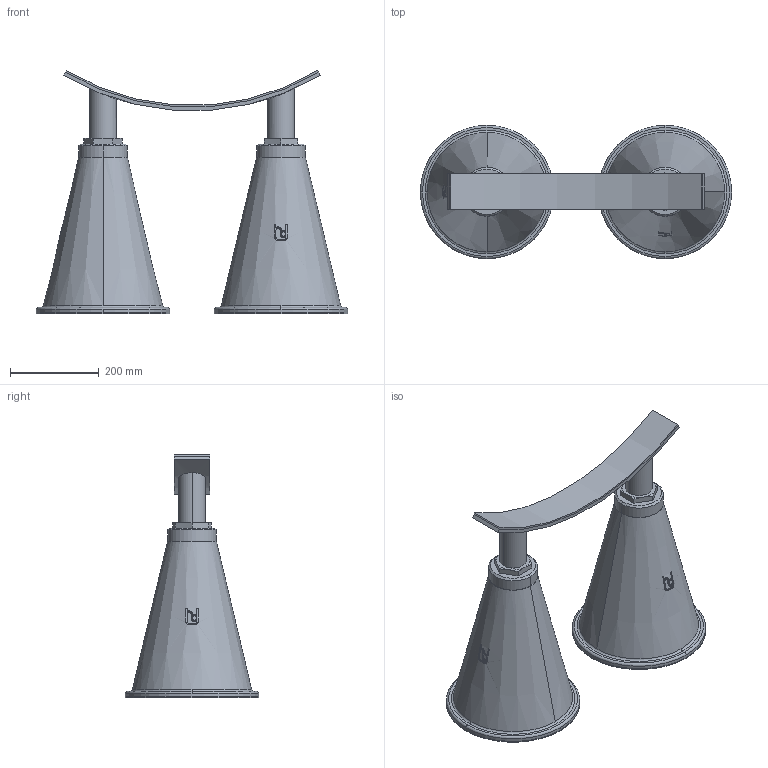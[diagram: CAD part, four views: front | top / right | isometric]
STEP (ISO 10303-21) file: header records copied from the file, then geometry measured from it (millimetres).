
FILE_DESCRIPTION(('STEP AP214'),'1');
FILE_NAME('RSRFB-DUO_DN1100.stp','2018-06-26T14:15:45',(' '),(' '),'Spatial InterOp 3D',' ',' ');
FILE_SCHEMA(('automotive_design'));
Length unit declared in the file: millimetre
Products named in the file (10): 1; 2; 3; 4; 5; 6; 7; 8; 9; 10
Bounding box: 700 x 300 x 546.69 mm (x, y, z)
Volume: 25338802.8 mm3; surface area: 1365887.1 mm2
Topology: 10 solids, 14 shells, 214 faces, 506 edges, 326 vertices
Faces by surface type: plane 84, cylinder 80, cone 42, torus 8
Entity records: 9573 total; most frequent: CARTESIAN_POINT 2730, DIRECTION 1046, ORIENTED_EDGE 1012, EDGE_CURVE 506, AXIS2_PLACEMENT_3D 410, VERTEX_POINT 326, EDGE_LOOP 232, LINE 226
